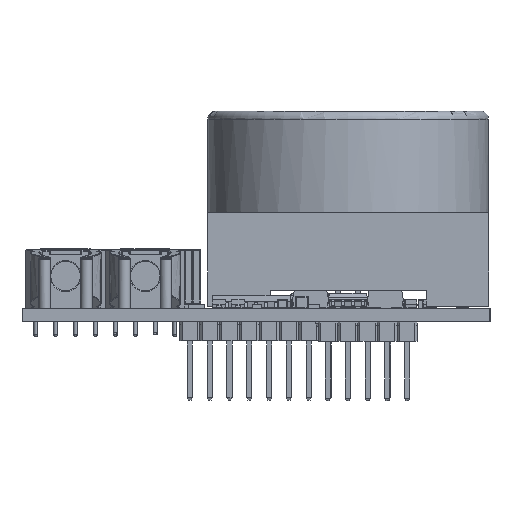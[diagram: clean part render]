
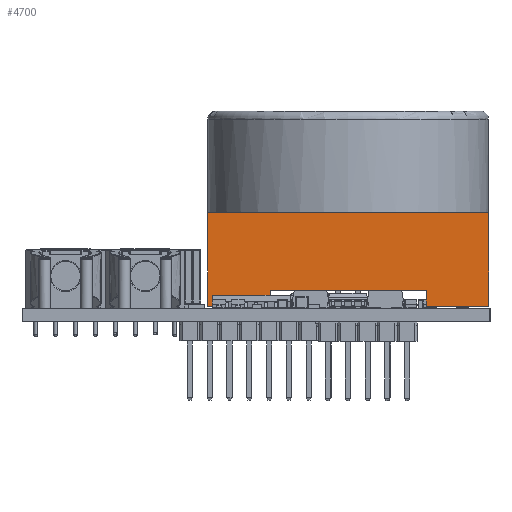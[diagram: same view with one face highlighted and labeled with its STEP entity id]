
A CAD part, left-side view. The second image highlights one B-rep face of the part: STEP entity #4700.
In plain terms, the highlighted planar face has unit normal (-1, 0, 0).
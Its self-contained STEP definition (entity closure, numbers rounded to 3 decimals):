
#4700=ADVANCED_FACE('',(#71804),#71806,.F.);
#71804=FACE_BOUND('',#71805,.T.);
#71805=EDGE_LOOP('',(#144678,#144679,#144680,#144681,#144682,#144683,#144684,#144685));
#71806=PLANE('',#71807);
#71807=AXIS2_PLACEMENT_3D('',#71808,#71809,#71810);
#71808=CARTESIAN_POINT('',(17.792,0.184,12.333));
#71809=DIRECTION('',(1.,0.,0.));
#71810=DIRECTION('',(0.,1.,0.));
#144678=ORIENTED_EDGE('',*,*,#179889,.F.);
#144679=ORIENTED_EDGE('',*,*,#179890,.T.);
#144680=ORIENTED_EDGE('',*,*,#179891,.F.);
#144681=ORIENTED_EDGE('',*,*,#179892,.T.);
#144682=ORIENTED_EDGE('',*,*,#179893,.F.);
#144683=ORIENTED_EDGE('',*,*,#179881,.T.);
#144684=ORIENTED_EDGE('',*,*,#179867,.F.);
#144685=ORIENTED_EDGE('',*,*,#179887,.F.);
#179867=EDGE_CURVE('',#198170,#198168,#198172,.T.);
#179881=EDGE_CURVE('',#198187,#198168,#198198,.T.);
#179887=EDGE_CURVE('',#198208,#198170,#198210,.T.);
#179889=EDGE_CURVE('',#198212,#198208,#198213,.T.);
#179890=EDGE_CURVE('',#198212,#198214,#198215,.T.);
#179891=EDGE_CURVE('',#198216,#198214,#198217,.T.);
#179892=EDGE_CURVE('',#198216,#198218,#198219,.T.);
#179893=EDGE_CURVE('',#198187,#198218,#198220,.T.);
#198168=VERTEX_POINT('',#228596);
#198170=VERTEX_POINT('',#228600);
#198172=LINE('',#228604,#228605);
#198187=VERTEX_POINT('',#228639);
#198198=LINE('',#228662,#228663);
#198208=VERTEX_POINT('',#228682);
#198210=LINE('',#228686,#228687);
#198212=VERTEX_POINT('',#228692);
#198213=LINE('',#228693,#228694);
#198214=VERTEX_POINT('',#228696);
#198215=LINE('',#228697,#228698);
#198216=VERTEX_POINT('',#228700);
#198217=LINE('',#228701,#228702);
#198218=VERTEX_POINT('',#228704);
#198219=LINE('',#228705,#228706);
#198220=LINE('',#228708,#228709);
#228596=CARTESIAN_POINT('',(17.792,0.184,12.333));
#228600=CARTESIAN_POINT('',(17.792,36.184,12.333));
#228604=CARTESIAN_POINT('',(17.792,36.184,12.333));
#228605=VECTOR('',#228606,1.);
#228606=DIRECTION('',(0.,-1.,0.));
#228639=CARTESIAN_POINT('',(17.792,0.184,0.333));
#228662=CARTESIAN_POINT('',(17.792,0.184,0.333));
#228663=VECTOR('',#228664,1.);
#228664=DIRECTION('',(0.,0.,1.));
#228682=CARTESIAN_POINT('',(17.792,36.184,0.333));
#228686=CARTESIAN_POINT('',(17.792,36.184,0.333));
#228687=VECTOR('',#228688,1.);
#228688=DIRECTION('',(0.,0.,1.));
#228692=CARTESIAN_POINT('',(17.792,28.184,0.333));
#228693=CARTESIAN_POINT('',(17.792,28.184,0.333));
#228694=VECTOR('',#228695,1.);
#228695=DIRECTION('',(0.,1.,0.));
#228696=CARTESIAN_POINT('',(17.792,28.184,2.333));
#228697=CARTESIAN_POINT('',(17.792,28.184,0.333));
#228698=VECTOR('',#228699,1.);
#228699=DIRECTION('',(0.,0.,1.));
#228700=CARTESIAN_POINT('',(17.792,8.184,2.333));
#228701=CARTESIAN_POINT('',(17.792,8.184,2.333));
#228702=VECTOR('',#228703,1.);
#228703=DIRECTION('',(0.,1.,0.));
#228704=CARTESIAN_POINT('',(17.792,8.184,0.333));
#228705=CARTESIAN_POINT('',(17.792,8.184,2.333));
#228706=VECTOR('',#228707,1.);
#228707=DIRECTION('',(0.,0.,-1.));
#228708=CARTESIAN_POINT('',(17.792,0.184,0.333));
#228709=VECTOR('',#228710,1.);
#228710=DIRECTION('',(0.,1.,0.));
